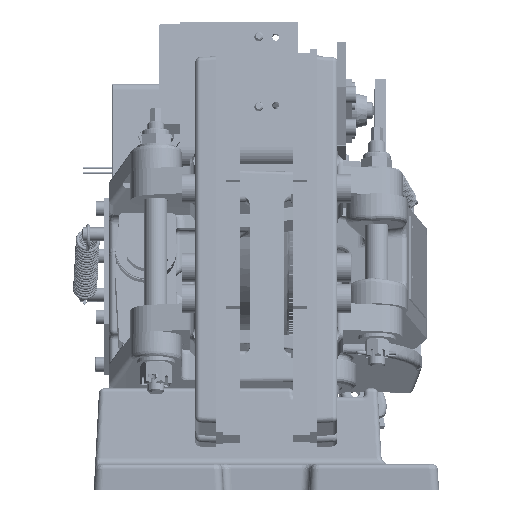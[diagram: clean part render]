
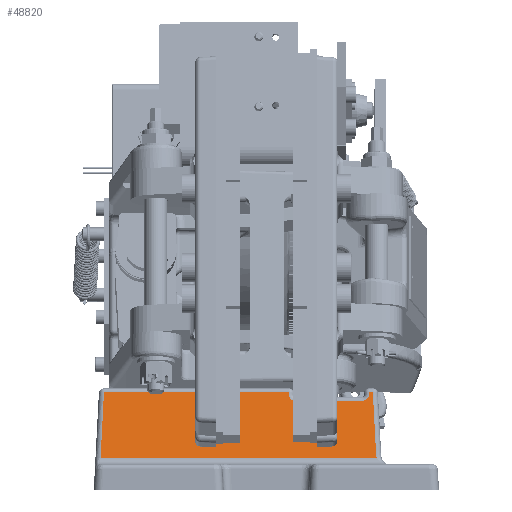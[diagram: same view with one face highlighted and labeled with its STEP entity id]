
A CAD part, left-side view. The second image highlights one B-rep face of the part: STEP entity #48820.
In plain terms, the highlighted planar face has unit normal (-0.974, 0, 0.225).
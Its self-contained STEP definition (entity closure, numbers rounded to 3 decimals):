
#41366=DIRECTION('',(0.,1.,0.));
#41367=VECTOR('',#41366,161.16);
#41368=CARTESIAN_POINT('',(-78.202,-87.753,
-10.826));
#41369=LINE('',#41368,#41367);
#41397=CARTESIAN_POINT('',(-78.202,73.407,
-10.826));
#41408=DIRECTION('',(0.225,0.052,0.973));
#41409=VECTOR('',#41408,37.83);
#41410=CARTESIAN_POINT('',(-77.881,-87.554,
-9.434));
#41411=LINE('',#41410,#41409);
#41415=CARTESIAN_POINT('',(-78.202,-87.753,
-10.826));
#41416=CARTESIAN_POINT('',(-78.096,-87.646,
-10.369));
#41417=CARTESIAN_POINT('',(-77.989,-87.58,
-9.903));
#41418=CARTESIAN_POINT('',(-77.881,-87.554,
-9.434));
#41423=DIRECTION('',(-0.225,0.051,-0.973));
#41424=VECTOR('',#41423,39.258);
#41425=CARTESIAN_POINT('',(-69.382,71.405,
27.376));
#41426=LINE('',#41425,#41424);
#41430=CARTESIAN_POINT('',(-69.643,-40.421,
26.246));
#41431=DIRECTION('',(0.974,0.,-0.225));
#41432=DIRECTION('',(-0.225,0.,-0.974));
#41433=AXIS2_PLACEMENT_3D('',#41430,#41431,#41432);
#41438=CARTESIAN_POINT('',(-69.643,-79.421,
26.246));
#41439=DIRECTION('',(0.974,0.,-0.225));
#41440=DIRECTION('',(0.,-1.,0.));
#41441=AXIS2_PLACEMENT_3D('',#41438,#41439,#41440);
#41815=DIRECTION('',(0.,-1.,0.));
#41816=VECTOR('',#41815,2.153);
#41817=CARTESIAN_POINT('',(-69.382,-83.421,
27.376));
#41818=LINE('',#41817,#41816);
#41889=DIRECTION('',(0.225,0.,0.974));
#41890=VECTOR('',#41889,1.16);
#41891=CARTESIAN_POINT('',(-69.643,-83.421,
26.246));
#41892=LINE('',#41891,#41890);
#41935=DIRECTION('',(0.,-1.,0.));
#41936=VECTOR('',#41935,39.);
#41937=CARTESIAN_POINT('',(-70.543,-40.421,
22.348));
#41938=LINE('',#41937,#41936);
#41974=DIRECTION('',(-0.225,0.,-0.974));
#41975=VECTOR('',#41974,1.16);
#41976=CARTESIAN_POINT('',(-69.382,-36.421,
27.376));
#41977=LINE('',#41976,#41975);
#42076=DIRECTION('',(0.,-1.,0.));
#42077=VECTOR('',#42076,107.826);
#42078=CARTESIAN_POINT('',(-69.382,71.405,
27.376));
#42079=LINE('',#42078,#42077);
#46178=CARTESIAN_POINT('',(-77.881,-87.554,
-9.434));
#46179=CARTESIAN_POINT('',(-69.382,-85.575,
27.376));
#46180=VERTEX_POINT('',#46178);
#46181=VERTEX_POINT('',#46179);
#46243=VERTEX_POINT('',#41397);
#46304=CARTESIAN_POINT('',(-69.643,-83.421,
26.246));
#46305=CARTESIAN_POINT('',(-70.543,-79.421,
22.348));
#46306=VERTEX_POINT('',#46304);
#46307=VERTEX_POINT('',#46305);
#46375=CARTESIAN_POINT('',(-69.382,71.405,
27.376));
#46377=VERTEX_POINT('',#46375);
#46402=CARTESIAN_POINT('',(-69.382,-83.421,
27.376));
#46403=VERTEX_POINT('',#46402);
#46453=CARTESIAN_POINT('',(-70.543,-40.421,
22.348));
#46454=VERTEX_POINT('',#46453);
#46666=CARTESIAN_POINT('',(-69.382,-36.421,
27.376));
#46667=VERTEX_POINT('',#46666);
#46690=CARTESIAN_POINT('',(-78.202,-87.753,
-10.826));
#46691=VERTEX_POINT('',#46690);
#46845=CARTESIAN_POINT('',(-69.643,-36.421,
26.246));
#46846=VERTEX_POINT('',#46845);
#48792=CARTESIAN_POINT('',(-79.097,138.739,
-14.701));
#48793=DIRECTION('',(0.974,0.,-0.225));
#48794=DIRECTION('',(-0.225,0.,-0.974));
#48795=AXIS2_PLACEMENT_3D('',#48792,#48793,#48794);
#48796=PLANE('',#48795);
#48798=ORIENTED_EDGE('',*,*,#48797,.F.);
#48800=ORIENTED_EDGE('',*,*,#48799,.F.);
#48801=ORIENTED_EDGE('',*,*,#48782,.T.);
#48803=ORIENTED_EDGE('',*,*,#48802,.F.);
#48805=ORIENTED_EDGE('',*,*,#48804,.T.);
#48807=ORIENTED_EDGE('',*,*,#48806,.T.);
#48809=ORIENTED_EDGE('',*,*,#48808,.F.);
#48811=ORIENTED_EDGE('',*,*,#48810,.T.);
#48813=ORIENTED_EDGE('',*,*,#48812,.F.);
#48815=ORIENTED_EDGE('',*,*,#48814,.T.);
#48817=ORIENTED_EDGE('',*,*,#48816,.T.);
#48818=EDGE_LOOP('',(#48798,#48800,#48801,#48803,#48805,#48807,#48809,#48811,
#48813,#48815,#48817));
#48819=FACE_OUTER_BOUND('',#48818,.F.);
#48820=ADVANCED_FACE('',(#48819),#48796,.F.);
#41419=B_SPLINE_CURVE_WITH_KNOTS('',3,(#41415,#41416,#41417,#41418),
.UNSPECIFIED.,.F.,.F.,(4,4),(0.,1.),.UNSPECIFIED.);
#41434=CIRCLE('',#41433,4.);
#41442=CIRCLE('',#41441,4.);
#48782=EDGE_CURVE('',#46691,#46243,#41369,.T.);
#48797=EDGE_CURVE('',#46180,#46181,#41411,.T.);
#48799=EDGE_CURVE('',#46691,#46180,#41419,.T.);
#48802=EDGE_CURVE('',#46377,#46243,#41426,.T.);
#48804=EDGE_CURVE('',#46377,#46667,#42079,.T.);
#48806=EDGE_CURVE('',#46667,#46846,#41977,.T.);
#48808=EDGE_CURVE('',#46454,#46846,#41434,.T.);
#48810=EDGE_CURVE('',#46454,#46307,#41938,.T.);
#48812=EDGE_CURVE('',#46306,#46307,#41442,.T.);
#48814=EDGE_CURVE('',#46306,#46403,#41892,.T.);
#48816=EDGE_CURVE('',#46403,#46181,#41818,.T.);
